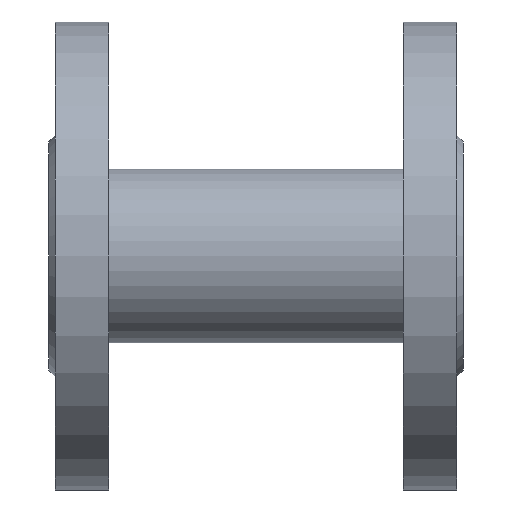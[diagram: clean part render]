
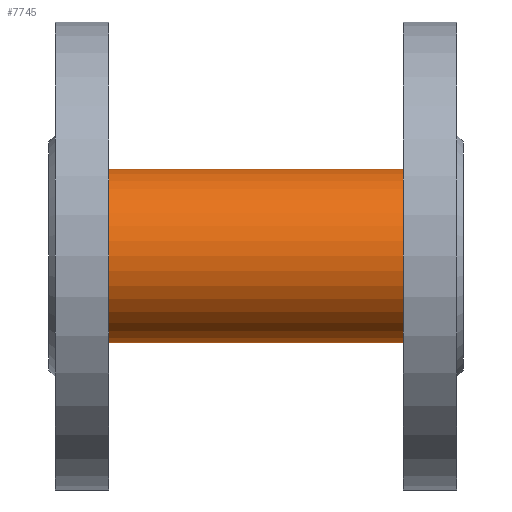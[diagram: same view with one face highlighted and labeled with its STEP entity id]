
A CAD part, front view. The second image highlights one B-rep face of the part: STEP entity #7745.
In plain terms, the highlighted cylindrical face has radius 26 mm (diameter 52 mm), a full revolution.
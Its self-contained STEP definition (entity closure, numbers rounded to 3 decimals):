
#2623=LINE('',#40535,#4459);
#2624=LINE('',#40541,#4460);
#4459=VECTOR('',#32820,1.);
#4460=VECTOR('',#32825,1.);
#6534=ELLIPSE('',#29966,36.77,26.);
#6535=ELLIPSE('',#29967,36.77,26.);
#6536=ELLIPSE('',#29968,36.77,26.);
#6537=ELLIPSE('',#29969,36.77,26.);
#7063=CYLINDRICAL_SURFACE('',#29972,26.);
#7745=ADVANCED_FACE('',(#10513,#10514,#10515),#7063,.T.);
#10513=FACE_BOUND('',#12007,.T.);
#10514=FACE_BOUND('',#12008,.T.);
#10515=FACE_BOUND('',#12009,.T.);
#12007=EDGE_LOOP('',(#14675,#14676,#14677,#14678,#14679,#14680));
#12008=EDGE_LOOP('',(#14681));
#12009=EDGE_LOOP('',(#14682));
#14675=ORIENTED_EDGE('',*,*,#24947,.T.);
#14676=ORIENTED_EDGE('',*,*,#24948,.T.);
#14677=ORIENTED_EDGE('',*,*,#24949,.T.);
#14678=ORIENTED_EDGE('',*,*,#24950,.T.);
#14679=ORIENTED_EDGE('',*,*,#24951,.T.);
#14680=ORIENTED_EDGE('',*,*,#24952,.T.);
#14681=ORIENTED_EDGE('',*,*,#24953,.F.);
#14682=ORIENTED_EDGE('',*,*,#24954,.F.);
#22257=VERTEX_POINT('',#40531);
#22258=VERTEX_POINT('',#40532);
#22259=VERTEX_POINT('',#40534);
#22260=VERTEX_POINT('',#40536);
#22261=VERTEX_POINT('',#40538);
#22262=VERTEX_POINT('',#40540);
#22263=VERTEX_POINT('',#40543);
#22264=VERTEX_POINT('',#40545);
#24947=EDGE_CURVE('',#22257,#22258,#6534,.T.);
#24948=EDGE_CURVE('',#22258,#22259,#6535,.T.);
#24949=EDGE_CURVE('',#22259,#22260,#2623,.T.);
#24950=EDGE_CURVE('',#22260,#22261,#6536,.T.);
#24951=EDGE_CURVE('',#22261,#22262,#6537,.T.);
#24952=EDGE_CURVE('',#22262,#22257,#2624,.T.);
#24953=EDGE_CURVE('',#22263,#22263,#28745,.T.);
#24954=EDGE_CURVE('',#22264,#22264,#28746,.T.);
#28745=CIRCLE('',#29970,26.);
#28746=CIRCLE('',#29971,26.);
#29966=AXIS2_PLACEMENT_3D('',#40530,#32816,#32817);
#29967=AXIS2_PLACEMENT_3D('',#40533,#32818,#32819);
#29968=AXIS2_PLACEMENT_3D('',#40537,#32821,#32822);
#29969=AXIS2_PLACEMENT_3D('',#40539,#32823,#32824);
#29970=AXIS2_PLACEMENT_3D('',#40542,#32826,#32827);
#29971=AXIS2_PLACEMENT_3D('',#40544,#32828,#32829);
#29972=AXIS2_PLACEMENT_3D('',#40546,#32830,#32831);
#32816=DIRECTION('',(-0.707,-0.707,0.));
#32817=DIRECTION('',(-0.707,0.707,0.));
#32818=DIRECTION('',(-0.707,-0.707,0.));
#32819=DIRECTION('',(-0.707,0.707,0.));
#32820=DIRECTION('',(1.,0.,0.));
#32821=DIRECTION('',(0.707,-0.707,0.));
#32822=DIRECTION('',(-0.707,-0.707,0.));
#32823=DIRECTION('',(0.707,-0.707,0.));
#32824=DIRECTION('',(-0.707,-0.707,0.));
#32825=DIRECTION('',(-1.,0.,0.));
#32826=DIRECTION('',(1.,0.,0.));
#32827=DIRECTION('',(0.,0.,1.));
#32828=DIRECTION('',(-1.,0.,0.));
#32829=DIRECTION('',(0.,0.,-1.));
#32830=DIRECTION('',(-1.,0.,0.));
#32831=DIRECTION('',(0.,0.,1.));
#40530=CARTESIAN_POINT('',(45.,-22.49,380.5));
#40531=CARTESIAN_POINT('',(20.,2.51,387.641));
#40532=CARTESIAN_POINT('',(19.,3.51,380.5));
#40533=CARTESIAN_POINT('',(45.,-22.49,380.5));
#40534=CARTESIAN_POINT('',(20.,2.51,373.359));
#40535=CARTESIAN_POINT('',(20.,2.51,373.359));
#40536=CARTESIAN_POINT('',(70.,2.51,373.359));
#40537=CARTESIAN_POINT('',(45.,-22.49,380.5));
#40538=CARTESIAN_POINT('',(71.,3.51,380.5));
#40539=CARTESIAN_POINT('',(45.,-22.49,380.5));
#40540=CARTESIAN_POINT('',(70.,2.51,387.641));
#40541=CARTESIAN_POINT('',(70.,2.51,387.641));
#40542=CARTESIAN_POINT('',(89.,-22.49,380.5));
#40543=CARTESIAN_POINT('',(89.,-22.49,406.5));
#40544=CARTESIAN_POINT('',(1.,-22.49,380.5));
#40545=CARTESIAN_POINT('',(1.,-22.49,354.5));
#40546=CARTESIAN_POINT('',(76.,-22.49,380.5));
